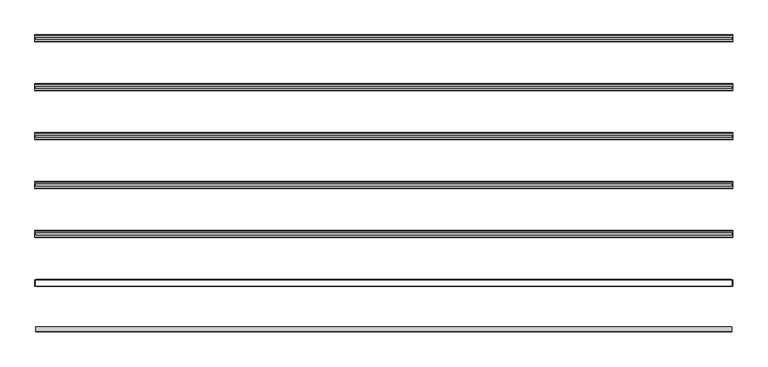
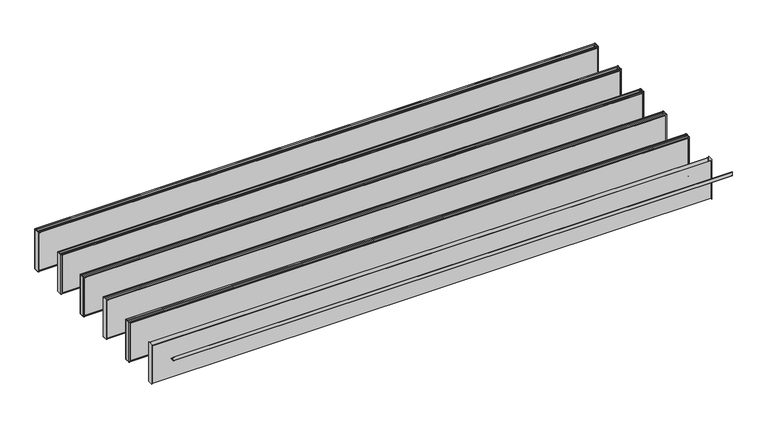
"""IFC4 building model written with IfcOpenShell, lengths in millimetres: proxy geometry, durlum_POLYLAM : durlum_POLYLAM 40."""

from ifc_helpers import new_model, si_unit, point, frame, frame_2d, origin, place, context, project, spatial, polyline, circle_curve, trimmed, segment, composite_curve, outline, extrude, source, transform, mapped, element, save
from ifc_brep_helpers import plane_surface, cylinder_surface, advanced_brep


def generic_models_c1ba41e6(model_context):
    return source(origin(), model_context, "Body", "SolidModel", [
        extrude(outline(composite_curve([segment(polyline([(2.0, 2079.9), (2.0, 2054.0)]), True, "CONTINUOUS"), segment(trimmed(circle_curve(frame_2d((4.0, 2054.0)), 2.0), [point((2.0, 2054.0))], [point((4.0, 2052.0))], True, "CARTESIAN"), True, "CONTINUOUS"), segment(polyline([(4.0, 2052.0), (29.9, 2052.0), (29.9, 2050.0), (4.0, 2050.0)]), True, "CONTINUOUS"), segment(trimmed(circle_curve(frame_2d((4.0, 2054.0)), 4.0), [point((4.0, 2050.0))], [point((0.0, 2054.0))], False, "CARTESIAN"), True, "CONTINUOUS"), segment(polyline([(0.0, 2054.0), (0.0, 2079.9), (2.0, 2079.9)]), True, "CONTINUOUS")], self_intersect=False)), frame((-1990.0, 0.0, 0.0), z_axis=(1.0, 0.0, 0.0), x_axis=(0.0, 1.0, 0.0)), (0.0, 0.0, 1.0), 3980.0),
        extrude(outline(polyline([(1986.5, 1699.0), (-1986.5, 1699.0), (-1986.5, 1700.0), (1986.5, 1700.0), (1986.5, 1699.0)])), frame((0.0, 0.0, 1725.4), z_axis=(0.0, 0.0, 1.0), x_axis=(1.0, 0.0, 0.0)), (0.0, 0.0, 1.0), 283.0),
        extrude(outline(polyline([(1986.5, 1660.0), (-1986.5, 1660.0), (-1986.5, 1661.0), (1986.5, 1661.0), (1986.5, 1660.0)])), frame((0.0, 0.0, 1725.4), z_axis=(0.0, 0.0, 1.0), x_axis=(1.0, 0.0, 0.0)), (0.0, 0.0, 1.0), 283.0),
        extrude(outline(polyline([(1993.0, 1699.0), (1995.0, 1699.0), (1995.0, 1661.0), (1993.0, 1661.0), (1993.0, 1699.0)])), frame((0.0, 0.0, 1717.9), z_axis=(0.0, 0.0, 1.0), x_axis=(1.0, 0.0, 0.0)), (0.0, 0.0, 1.0), 298.0),
        extrude(outline(polyline([(-1995.0, 1699.0), (-1993.0, 1699.0), (-1993.0, 1661.0), (-1995.0, 1661.0), (-1995.0, 1699.0)])), frame((0.0, 0.0, 1717.9), z_axis=(0.0, 0.0, 1.0), x_axis=(1.0, 0.0, 0.0)), (0.0, 0.0, 1.0), 298.0),
        advanced_brep(
        [(1995.0, 1698.0, 2016.9), (1995.0, 1688.0, 2016.9), (1995.0, 1688.0, 2015.9), (1995.0, 1699.0, 2015.9), (1995.0, 1699.0, 1717.9), (1995.0, 1661.0, 1717.9), (1995.0, 1661.0, 2015.8155735), (1995.0, 1672.0, 2015.8155735), (1995.0, 1672.0, 2016.9), (1995.0, 1662.0, 2016.9), (1995.0, 1660.0, 2014.9), (1995.0, 1660.0, 1718.9), (1995.0, 1662.0, 1716.9), (1995.0, 1698.0, 1716.9), (1995.0, 1700.0, 1718.9), (1995.0, 1700.0, 2014.9), (-1995.0, 1698.0, 2016.9), (-1995.0, 1700.0, 2014.9), (-1995.0, 1700.0, 1718.9), (-1995.0, 1698.0, 1716.9), (-1995.0, 1662.0, 1716.9), (-1995.0, 1660.0, 1718.9), (-1995.0, 1660.0, 2014.9), (-1995.0, 1662.0, 2016.9), (-1995.0, 1672.0, 2016.9), (-1995.0, 1672.0, 2015.8155735), (-1995.0, 1661.0, 2015.8155735), (-1995.0, 1661.0, 1717.9), (-1995.0, 1699.0, 1717.9), (-1995.0, 1699.0, 2015.9), (-1995.0, 1688.0, 2015.9), (-1995.0, 1688.0, 2016.9), (-1986.5, 1699.0, 2008.4), (1986.5, 1699.0, 2008.4), (1986.5, 1699.0, 1725.4), (-1986.5, 1699.0, 1725.4), (1986.5, 1661.0, 2008.4), (-1986.5, 1661.0, 2008.4), (-1986.5, 1661.0, 1725.4), (1986.5, 1661.0, 1725.4), (-1986.5, 1660.0, 2008.4), (1986.5, 1660.0, 2008.4), (1986.5, 1660.0, 1725.4), (-1986.5, 1660.0, 1725.4), (1986.5, 1700.0, 2008.4), (-1986.5, 1700.0, 2008.4), (-1986.5, 1700.0, 1725.4), (1986.5, 1700.0, 1725.4)],
        [
            (0, 1),
            (1, 2),
            (2, 3),
            (3, 4),
            (4, 5),
            (5, 6),
            (6, 7),
            (7, 8),
            (8, 9),
            (9, 10, circle_curve(frame((1995.0, 1662.0, 2014.9), z_axis=(1.0, 0.0, 0.0), x_axis=(0.0, 1.0, 0.0)), 2.0)),
            (10, 11),
            (11, 12, circle_curve(frame((1995.0, 1662.0, 1718.9), z_axis=(1.0, 0.0, 0.0), x_axis=(0.0, 1.0, 0.0)), 2.0)),
            (12, 13),
            (13, 14, circle_curve(frame((1995.0, 1698.0, 1718.9), z_axis=(1.0, 0.0, 0.0), x_axis=(0.0, 1.0, 0.0)), 2.0)),
            (14, 15),
            (15, 0, circle_curve(frame((1995.0, 1698.0, 2014.9), z_axis=(1.0, 0.0, 0.0), x_axis=(0.0, 1.0, 0.0)), 2.0)),
            (16, 17, circle_curve(frame((-1995.0, 1698.0, 2014.9), z_axis=(-1.0, 0.0, 0.0), x_axis=(0.0, 1.0, 0.0)), 2.0)),
            (17, 18),
            (18, 19, circle_curve(frame((-1995.0, 1698.0, 1718.9), z_axis=(-1.0, 0.0, 0.0), x_axis=(0.0, 1.0, 0.0)), 2.0)),
            (19, 20),
            (20, 21, circle_curve(frame((-1995.0, 1662.0, 1718.9), z_axis=(-1.0, 0.0, 0.0), x_axis=(0.0, 1.0, 0.0)), 2.0)),
            (21, 22),
            (22, 23, circle_curve(frame((-1995.0, 1662.0, 2014.9), z_axis=(-1.0, 0.0, 0.0), x_axis=(0.0, 1.0, 0.0)), 2.0)),
            (23, 24),
            (24, 25),
            (25, 26),
            (26, 27),
            (27, 28),
            (28, 29),
            (29, 30),
            (30, 31),
            (31, 16),
            (0, 16),
            (31, 1),
            (30, 2),
            (29, 3),
            (28, 4),
            (32, 33),
            (33, 34),
            (34, 35),
            (35, 32),
            (27, 5),
            (26, 6),
            (36, 37),
            (37, 38),
            (38, 39),
            (39, 36),
            (25, 7),
            (24, 8),
            (23, 9),
            (10, 22),
            (21, 11),
            (40, 41),
            (41, 42),
            (42, 43),
            (43, 40),
            (12, 20),
            (19, 13),
            (14, 18),
            (17, 15),
            (44, 45),
            (45, 46),
            (46, 47),
            (47, 44),
            (44, 33),
            (32, 45),
            (36, 41),
            (40, 37),
            (35, 46),
            (43, 38),
            (34, 47),
            (42, 39),
        ],
        [
            plane_surface(frame((1995.0, 1688.0, 2016.9), z_axis=(1.0, 0.0, 0.0), x_axis=(0.0, -1.0, 0.0))),
            plane_surface(frame((-1995.0, 1688.0, 2016.9), z_axis=(-1.0, 0.0, 0.0), x_axis=(0.0, 1.0, 0.0))),
            plane_surface(frame((1995.0, 1698.0, 2016.9), z_axis=(0.0, 0.0, 1.0), x_axis=(-1.0, 0.0, 0.0))),
            plane_surface(frame((1995.0, 1688.0, 2016.9), z_axis=(0.0, -1.0, 0.0), x_axis=(-1.0, 0.0, 0.0))),
            plane_surface(frame((1995.0, 1688.0, 2015.9), z_axis=(0.0, 0.0, -1.0), x_axis=(-1.0, 0.0, 0.0))),
            plane_surface(frame((1995.0, 1699.0, 2015.9), z_axis=(0.0, -1.0, 0.0), x_axis=(-1.0, 0.0, 0.0))),
            plane_surface(frame((1995.0, 1699.0, 1717.9), z_axis=(0.0, 0.0, 1.0), x_axis=(-1.0, 0.0, 0.0))),
            plane_surface(frame((1995.0, 1661.0, 1717.9), z_axis=(0.0, 1.0, 0.0), x_axis=(-1.0, 0.0, 0.0))),
            plane_surface(frame((1995.0, 1661.0, 2015.8155735), z_axis=(0.0, 0.0, -1.0), x_axis=(-1.0, 0.0, 0.0))),
            plane_surface(frame((1995.0, 1672.0, 2015.8155735), z_axis=(0.0, 1.0, 0.0), x_axis=(-1.0, 0.0, 0.0))),
            plane_surface(frame((1995.0, 1672.0, 2016.9), z_axis=(0.0, 0.0, 1.0), x_axis=(-1.0, 0.0, 0.0))),
            plane_surface(frame((1995.0, 1660.0, 2014.9), z_axis=(0.0, -1.0, 0.0), x_axis=(-1.0, 0.0, 0.0))),
            plane_surface(frame((1995.0, 1662.0, 1716.9), z_axis=(0.0, 0.0, -1.0), x_axis=(-1.0, 0.0, 0.0))),
            plane_surface(frame((1995.0, 1700.0, 1718.9), z_axis=(0.0, 1.0, 0.0), x_axis=(-1.0, 0.0, 0.0))),
            cylinder_surface(frame((-1995.0, 1662.0, 2014.9), z_axis=(1.0, 0.0, 0.0), x_axis=(0.0, 1.0, 0.0)), 2.0),
            cylinder_surface(frame((-1995.0, 1662.0, 1718.9), z_axis=(1.0, 0.0, 0.0), x_axis=(0.0, 1.0, 0.0)), 2.0),
            cylinder_surface(frame((-1995.0, 1698.0, 1718.9), z_axis=(1.0, 0.0, 0.0), x_axis=(0.0, 1.0, 0.0)), 2.0),
            cylinder_surface(frame((-1995.0, 1698.0, 2014.9), z_axis=(1.0, 0.0, 0.0), x_axis=(0.0, 1.0, 0.0)), 2.0),
            plane_surface(frame((1986.5, 1660.0, 2008.4), z_axis=(0.0, 0.0, -1.0), x_axis=(0.0, 1.0, 0.0))),
            plane_surface(frame((-1986.5, 1660.0, 2008.4), z_axis=(1.0, 0.0, 0.0), x_axis=(0.0, 1.0, 0.0))),
            plane_surface(frame((-1986.5, 1660.0, 1725.4), z_axis=(0.0, 0.0, 1.0), x_axis=(0.0, 1.0, 0.0))),
            plane_surface(frame((1986.5, 1660.0, 1725.4), z_axis=(-1.0, 0.0, 0.0), x_axis=(0.0, 1.0, 0.0))),
        ],
        [
            (0, [[1, 2, 3, 4, 5, 6, 7, 8, 9, 10, 11, 12, 13, 14, 15, 16]]),
            (1, [[17, 18, 19, 20, 21, 22, 23, 24, 25, 26, 27, 28, 29, 30, 31, 32]]),
            (2, [[-1, 33, -32, 34]]),
            (3, [[-2, -34, -31, 35]]),
            (4, [[-3, -35, -30, 36]]),
            (5, [[-4, -36, -29, 37], [38, 39, 40, 41]]),
            (6, [[-5, -37, -28, 42]]),
            (7, [[-6, -42, -27, 43], [44, 45, 46, 47]]),
            (8, [[-7, -43, -26, 48]]),
            (9, [[-8, -48, -25, 49]]),
            (10, [[-9, -49, -24, 50]]),
            (11, [[-11, 51, -22, 52], [53, 54, 55, 56]]),
            (12, [[-13, 57, -20, 58]]),
            (13, [[-15, 59, -18, 60], [61, 62, 63, 64]]),
            (14, [[-10, -50, -23, -51]]),
            (15, [[-12, -52, -21, -57]]),
            (16, [[-14, -58, -19, -59]]),
            (17, [[-16, -60, -17, -33]]),
            (18, [[65, -38, 66, -61]]),
            (18, [[67, -53, 68, -44]]),
            (19, [[-66, -41, 69, -62]]),
            (19, [[-68, -56, 70, -45]]),
            (20, [[-69, -40, 71, -63]]),
            (20, [[-70, -55, 72, -46]]),
            (21, [[-65, -64, -71, -39]]),
            (21, [[-67, -47, -72, -54]]),
        ],
    ),
        extrude(outline(polyline([(1986.5, 1419.0), (-1986.5, 1419.0), (-1986.5, 1420.0), (1986.5, 1420.0), (1986.5, 1419.0)])), frame((0.0, 0.0, 1725.4), z_axis=(0.0, 0.0, 1.0), x_axis=(1.0, 0.0, 0.0)), (0.0, 0.0, 1.0), 283.0),
        extrude(outline(polyline([(1986.5, 1380.0), (-1986.5, 1380.0), (-1986.5, 1381.0), (1986.5, 1381.0), (1986.5, 1380.0)])), frame((0.0, 0.0, 1725.4), z_axis=(0.0, 0.0, 1.0), x_axis=(1.0, 0.0, 0.0)), (0.0, 0.0, 1.0), 283.0),
        extrude(outline(polyline([(1993.0, 1419.0), (1995.0, 1419.0), (1995.0, 1381.0), (1993.0, 1381.0), (1993.0, 1419.0)])), frame((0.0, 0.0, 1717.9), z_axis=(0.0, 0.0, 1.0), x_axis=(1.0, 0.0, 0.0)), (0.0, 0.0, 1.0), 298.0),
        extrude(outline(polyline([(-1995.0, 1419.0), (-1993.0, 1419.0), (-1993.0, 1381.0), (-1995.0, 1381.0), (-1995.0, 1419.0)])), frame((0.0, 0.0, 1717.9), z_axis=(0.0, 0.0, 1.0), x_axis=(1.0, 0.0, 0.0)), (0.0, 0.0, 1.0), 298.0),
        advanced_brep(
        [(1995.0, 1418.0, 2016.9), (1995.0, 1408.0, 2016.9), (1995.0, 1408.0, 2015.9), (1995.0, 1419.0, 2015.9), (1995.0, 1419.0, 1717.9), (1995.0, 1381.0, 1717.9), (1995.0, 1381.0, 2015.8155735), (1995.0, 1392.0, 2015.8155735), (1995.0, 1392.0, 2016.9), (1995.0, 1382.0, 2016.9), (1995.0, 1380.0, 2014.9), (1995.0, 1380.0, 1718.9), (1995.0, 1382.0, 1716.9), (1995.0, 1418.0, 1716.9), (1995.0, 1420.0, 1718.9), (1995.0, 1420.0, 2014.9), (-1995.0, 1418.0, 2016.9), (-1995.0, 1420.0, 2014.9), (-1995.0, 1420.0, 1718.9), (-1995.0, 1418.0, 1716.9), (-1995.0, 1382.0, 1716.9), (-1995.0, 1380.0, 1718.9), (-1995.0, 1380.0, 2014.9), (-1995.0, 1382.0, 2016.9), (-1995.0, 1392.0, 2016.9), (-1995.0, 1392.0, 2015.8155735), (-1995.0, 1381.0, 2015.8155735), (-1995.0, 1381.0, 1717.9), (-1995.0, 1419.0, 1717.9), (-1995.0, 1419.0, 2015.9), (-1995.0, 1408.0, 2015.9), (-1995.0, 1408.0, 2016.9), (-1986.5, 1419.0, 2008.4), (1986.5, 1419.0, 2008.4), (1986.5, 1419.0, 1725.4), (-1986.5, 1419.0, 1725.4), (1986.5, 1381.0, 2008.4), (-1986.5, 1381.0, 2008.4), (-1986.5, 1381.0, 1725.4), (1986.5, 1381.0, 1725.4), (-1986.5, 1380.0, 2008.4), (1986.5, 1380.0, 2008.4), (1986.5, 1380.0, 1725.4), (-1986.5, 1380.0, 1725.4), (1986.5, 1420.0, 2008.4), (-1986.5, 1420.0, 2008.4), (-1986.5, 1420.0, 1725.4), (1986.5, 1420.0, 1725.4)],
        [
            (0, 1),
            (1, 2),
            (2, 3),
            (3, 4),
            (4, 5),
            (5, 6),
            (6, 7),
            (7, 8),
            (8, 9),
            (9, 10, circle_curve(frame((1995.0, 1382.0, 2014.9), z_axis=(1.0, 0.0, 0.0), x_axis=(0.0, 1.0, 0.0)), 2.0)),
            (10, 11),
            (11, 12, circle_curve(frame((1995.0, 1382.0, 1718.9), z_axis=(1.0, 0.0, 0.0), x_axis=(0.0, 1.0, 0.0)), 2.0)),
            (12, 13),
            (13, 14, circle_curve(frame((1995.0, 1418.0, 1718.9), z_axis=(1.0, 0.0, 0.0), x_axis=(0.0, 1.0, 0.0)), 2.0)),
            (14, 15),
            (15, 0, circle_curve(frame((1995.0, 1418.0, 2014.9), z_axis=(1.0, 0.0, 0.0), x_axis=(0.0, 1.0, 0.0)), 2.0)),
            (16, 17, circle_curve(frame((-1995.0, 1418.0, 2014.9), z_axis=(-1.0, 0.0, 0.0), x_axis=(0.0, 1.0, 0.0)), 2.0)),
            (17, 18),
            (18, 19, circle_curve(frame((-1995.0, 1418.0, 1718.9), z_axis=(-1.0, 0.0, 0.0), x_axis=(0.0, 1.0, 0.0)), 2.0)),
            (19, 20),
            (20, 21, circle_curve(frame((-1995.0, 1382.0, 1718.9), z_axis=(-1.0, 0.0, 0.0), x_axis=(0.0, 1.0, 0.0)), 2.0)),
            (21, 22),
            (22, 23, circle_curve(frame((-1995.0, 1382.0, 2014.9), z_axis=(-1.0, 0.0, 0.0), x_axis=(0.0, 1.0, 0.0)), 2.0)),
            (23, 24),
            (24, 25),
            (25, 26),
            (26, 27),
            (27, 28),
            (28, 29),
            (29, 30),
            (30, 31),
            (31, 16),
            (0, 16),
            (31, 1),
            (30, 2),
            (29, 3),
            (28, 4),
            (32, 33),
            (33, 34),
            (34, 35),
            (35, 32),
            (27, 5),
            (26, 6),
            (36, 37),
            (37, 38),
            (38, 39),
            (39, 36),
            (25, 7),
            (24, 8),
            (23, 9),
            (10, 22),
            (21, 11),
            (40, 41),
            (41, 42),
            (42, 43),
            (43, 40),
            (12, 20),
            (19, 13),
            (14, 18),
            (17, 15),
            (44, 45),
            (45, 46),
            (46, 47),
            (47, 44),
            (44, 33),
            (32, 45),
            (36, 41),
            (40, 37),
            (35, 46),
            (43, 38),
            (34, 47),
            (42, 39),
        ],
        [
            plane_surface(frame((1995.0, 1408.0, 2016.9), z_axis=(1.0, 0.0, 0.0), x_axis=(0.0, -1.0, 0.0))),
            plane_surface(frame((-1995.0, 1408.0, 2016.9), z_axis=(-1.0, 0.0, 0.0), x_axis=(0.0, 1.0, 0.0))),
            plane_surface(frame((1995.0, 1418.0, 2016.9), z_axis=(0.0, 0.0, 1.0), x_axis=(-1.0, 0.0, 0.0))),
            plane_surface(frame((1995.0, 1408.0, 2016.9), z_axis=(0.0, -1.0, 0.0), x_axis=(-1.0, 0.0, 0.0))),
            plane_surface(frame((1995.0, 1408.0, 2015.9), z_axis=(0.0, 0.0, -1.0), x_axis=(-1.0, 0.0, 0.0))),
            plane_surface(frame((1995.0, 1419.0, 2015.9), z_axis=(0.0, -1.0, 0.0), x_axis=(-1.0, 0.0, 0.0))),
            plane_surface(frame((1995.0, 1419.0, 1717.9), z_axis=(0.0, 0.0, 1.0), x_axis=(-1.0, 0.0, 0.0))),
            plane_surface(frame((1995.0, 1381.0, 1717.9), z_axis=(0.0, 1.0, 0.0), x_axis=(-1.0, 0.0, 0.0))),
            plane_surface(frame((1995.0, 1381.0, 2015.8155735), z_axis=(0.0, 0.0, -1.0), x_axis=(-1.0, 0.0, 0.0))),
            plane_surface(frame((1995.0, 1392.0, 2015.8155735), z_axis=(0.0, 1.0, 0.0), x_axis=(-1.0, 0.0, 0.0))),
            plane_surface(frame((1995.0, 1392.0, 2016.9), z_axis=(0.0, 0.0, 1.0), x_axis=(-1.0, 0.0, 0.0))),
            plane_surface(frame((1995.0, 1380.0, 2014.9), z_axis=(0.0, -1.0, 0.0), x_axis=(-1.0, 0.0, 0.0))),
            plane_surface(frame((1995.0, 1382.0, 1716.9), z_axis=(0.0, 0.0, -1.0), x_axis=(-1.0, 0.0, 0.0))),
            plane_surface(frame((1995.0, 1420.0, 1718.9), z_axis=(0.0, 1.0, 0.0), x_axis=(-1.0, 0.0, 0.0))),
            cylinder_surface(frame((-1995.0, 1382.0, 2014.9), z_axis=(1.0, 0.0, 0.0), x_axis=(0.0, 1.0, 0.0)), 2.0),
            cylinder_surface(frame((-1995.0, 1382.0, 1718.9), z_axis=(1.0, 0.0, 0.0), x_axis=(0.0, 1.0, 0.0)), 2.0),
            cylinder_surface(frame((-1995.0, 1418.0, 1718.9), z_axis=(1.0, 0.0, 0.0), x_axis=(0.0, 1.0, 0.0)), 2.0),
            cylinder_surface(frame((-1995.0, 1418.0, 2014.9), z_axis=(1.0, 0.0, 0.0), x_axis=(0.0, 1.0, 0.0)), 2.0),
            plane_surface(frame((1986.5, 1380.0, 2008.4), z_axis=(0.0, 0.0, -1.0), x_axis=(0.0, 1.0, 0.0))),
            plane_surface(frame((-1986.5, 1380.0, 2008.4), z_axis=(1.0, 0.0, 0.0), x_axis=(0.0, 1.0, 0.0))),
            plane_surface(frame((-1986.5, 1380.0, 1725.4), z_axis=(0.0, 0.0, 1.0), x_axis=(0.0, 1.0, 0.0))),
            plane_surface(frame((1986.5, 1380.0, 1725.4), z_axis=(-1.0, 0.0, 0.0), x_axis=(0.0, 1.0, 0.0))),
        ],
        [
            (0, [[1, 2, 3, 4, 5, 6, 7, 8, 9, 10, 11, 12, 13, 14, 15, 16]]),
            (1, [[17, 18, 19, 20, 21, 22, 23, 24, 25, 26, 27, 28, 29, 30, 31, 32]]),
            (2, [[-1, 33, -32, 34]]),
            (3, [[-2, -34, -31, 35]]),
            (4, [[-3, -35, -30, 36]]),
            (5, [[-4, -36, -29, 37], [38, 39, 40, 41]]),
            (6, [[-5, -37, -28, 42]]),
            (7, [[-6, -42, -27, 43], [44, 45, 46, 47]]),
            (8, [[-7, -43, -26, 48]]),
            (9, [[-8, -48, -25, 49]]),
            (10, [[-9, -49, -24, 50]]),
            (11, [[-11, 51, -22, 52], [53, 54, 55, 56]]),
            (12, [[-13, 57, -20, 58]]),
            (13, [[-15, 59, -18, 60], [61, 62, 63, 64]]),
            (14, [[-10, -50, -23, -51]]),
            (15, [[-12, -52, -21, -57]]),
            (16, [[-14, -58, -19, -59]]),
            (17, [[-16, -60, -17, -33]]),
            (18, [[65, -38, 66, -61]]),
            (18, [[67, -53, 68, -44]]),
            (19, [[-66, -41, 69, -62]]),
            (19, [[-68, -56, 70, -45]]),
            (20, [[-69, -40, 71, -63]]),
            (20, [[-70, -55, 72, -46]]),
            (21, [[-65, -64, -71, -39]]),
            (21, [[-67, -47, -72, -54]]),
        ],
    ),
        extrude(outline(polyline([(1986.5, 1139.0), (-1986.5, 1139.0), (-1986.5, 1140.0), (1986.5, 1140.0), (1986.5, 1139.0)])), frame((0.0, 0.0, 1725.4), z_axis=(0.0, 0.0, 1.0), x_axis=(1.0, 0.0, 0.0)), (0.0, 0.0, 1.0), 283.0),
        extrude(outline(polyline([(1986.5, 1100.0), (-1986.5, 1100.0), (-1986.5, 1101.0), (1986.5, 1101.0), (1986.5, 1100.0)])), frame((0.0, 0.0, 1725.4), z_axis=(0.0, 0.0, 1.0), x_axis=(1.0, 0.0, 0.0)), (0.0, 0.0, 1.0), 283.0),
        extrude(outline(polyline([(1993.0, 1139.0), (1995.0, 1139.0), (1995.0, 1101.0), (1993.0, 1101.0), (1993.0, 1139.0)])), frame((0.0, 0.0, 1717.9), z_axis=(0.0, 0.0, 1.0), x_axis=(1.0, 0.0, 0.0)), (0.0, 0.0, 1.0), 298.0),
        extrude(outline(polyline([(-1995.0, 1139.0), (-1993.0, 1139.0), (-1993.0, 1101.0), (-1995.0, 1101.0), (-1995.0, 1139.0)])), frame((0.0, 0.0, 1717.9), z_axis=(0.0, 0.0, 1.0), x_axis=(1.0, 0.0, 0.0)), (0.0, 0.0, 1.0), 298.0),
        advanced_brep(
        [(1995.0, 1138.0, 2016.9), (1995.0, 1128.0, 2016.9), (1995.0, 1128.0, 2015.9), (1995.0, 1139.0, 2015.9), (1995.0, 1139.0, 1717.9), (1995.0, 1101.0, 1717.9), (1995.0, 1101.0, 2015.8155735), (1995.0, 1112.0, 2015.8155735), (1995.0, 1112.0, 2016.9), (1995.0, 1102.0, 2016.9), (1995.0, 1100.0, 2014.9), (1995.0, 1100.0, 1718.9), (1995.0, 1102.0, 1716.9), (1995.0, 1138.0, 1716.9), (1995.0, 1140.0, 1718.9), (1995.0, 1140.0, 2014.9), (-1995.0, 1138.0, 2016.9), (-1995.0, 1140.0, 2014.9), (-1995.0, 1140.0, 1718.9), (-1995.0, 1138.0, 1716.9), (-1995.0, 1102.0, 1716.9), (-1995.0, 1100.0, 1718.9), (-1995.0, 1100.0, 2014.9), (-1995.0, 1102.0, 2016.9), (-1995.0, 1112.0, 2016.9), (-1995.0, 1112.0, 2015.8155735), (-1995.0, 1101.0, 2015.8155735), (-1995.0, 1101.0, 1717.9), (-1995.0, 1139.0, 1717.9), (-1995.0, 1139.0, 2015.9), (-1995.0, 1128.0, 2015.9), (-1995.0, 1128.0, 2016.9), (-1986.5, 1139.0, 2008.4), (1986.5, 1139.0, 2008.4), (1986.5, 1139.0, 1725.4), (-1986.5, 1139.0, 1725.4), (1986.5, 1101.0, 2008.4), (-1986.5, 1101.0, 2008.4), (-1986.5, 1101.0, 1725.4), (1986.5, 1101.0, 1725.4), (-1986.5, 1100.0, 2008.4), (1986.5, 1100.0, 2008.4), (1986.5, 1100.0, 1725.4), (-1986.5, 1100.0, 1725.4), (1986.5, 1140.0, 2008.4), (-1986.5, 1140.0, 2008.4), (-1986.5, 1140.0, 1725.4), (1986.5, 1140.0, 1725.4)],
        [
            (0, 1),
            (1, 2),
            (2, 3),
            (3, 4),
            (4, 5),
            (5, 6),
            (6, 7),
            (7, 8),
            (8, 9),
            (9, 10, circle_curve(frame((1995.0, 1102.0, 2014.9), z_axis=(1.0, 0.0, 0.0), x_axis=(0.0, 1.0, 0.0)), 2.0)),
            (10, 11),
            (11, 12, circle_curve(frame((1995.0, 1102.0, 1718.9), z_axis=(1.0, 0.0, 0.0), x_axis=(0.0, 1.0, 0.0)), 2.0)),
            (12, 13),
            (13, 14, circle_curve(frame((1995.0, 1138.0, 1718.9), z_axis=(1.0, 0.0, 0.0), x_axis=(0.0, 1.0, 0.0)), 2.0)),
            (14, 15),
            (15, 0, circle_curve(frame((1995.0, 1138.0, 2014.9), z_axis=(1.0, 0.0, 0.0), x_axis=(0.0, 1.0, 0.0)), 2.0)),
            (16, 17, circle_curve(frame((-1995.0, 1138.0, 2014.9), z_axis=(-1.0, 0.0, 0.0), x_axis=(0.0, 1.0, 0.0)), 2.0)),
            (17, 18),
            (18, 19, circle_curve(frame((-1995.0, 1138.0, 1718.9), z_axis=(-1.0, 0.0, 0.0), x_axis=(0.0, 1.0, 0.0)), 2.0)),
            (19, 20),
            (20, 21, circle_curve(frame((-1995.0, 1102.0, 1718.9), z_axis=(-1.0, 0.0, 0.0), x_axis=(0.0, 1.0, 0.0)), 2.0)),
            (21, 22),
            (22, 23, circle_curve(frame((-1995.0, 1102.0, 2014.9), z_axis=(-1.0, 0.0, 0.0), x_axis=(0.0, 1.0, 0.0)), 2.0)),
            (23, 24),
            (24, 25),
            (25, 26),
            (26, 27),
            (27, 28),
            (28, 29),
            (29, 30),
            (30, 31),
            (31, 16),
            (0, 16),
            (31, 1),
            (30, 2),
            (29, 3),
            (28, 4),
            (32, 33),
            (33, 34),
            (34, 35),
            (35, 32),
            (27, 5),
            (26, 6),
            (36, 37),
            (37, 38),
            (38, 39),
            (39, 36),
            (25, 7),
            (24, 8),
            (23, 9),
            (10, 22),
            (21, 11),
            (40, 41),
            (41, 42),
            (42, 43),
            (43, 40),
            (12, 20),
            (19, 13),
            (14, 18),
            (17, 15),
            (44, 45),
            (45, 46),
            (46, 47),
            (47, 44),
            (44, 33),
            (32, 45),
            (36, 41),
            (40, 37),
            (35, 46),
            (43, 38),
            (34, 47),
            (42, 39),
        ],
        [
            plane_surface(frame((1995.0, 1128.0, 2016.9), z_axis=(1.0, 0.0, 0.0), x_axis=(0.0, -1.0, 0.0))),
            plane_surface(frame((-1995.0, 1128.0, 2016.9), z_axis=(-1.0, 0.0, 0.0), x_axis=(0.0, 1.0, 0.0))),
            plane_surface(frame((1995.0, 1138.0, 2016.9), z_axis=(0.0, 0.0, 1.0), x_axis=(-1.0, 0.0, 0.0))),
            plane_surface(frame((1995.0, 1128.0, 2016.9), z_axis=(0.0, -1.0, 0.0), x_axis=(-1.0, 0.0, 0.0))),
            plane_surface(frame((1995.0, 1128.0, 2015.9), z_axis=(0.0, 0.0, -1.0), x_axis=(-1.0, 0.0, 0.0))),
            plane_surface(frame((1995.0, 1139.0, 2015.9), z_axis=(0.0, -1.0, 0.0), x_axis=(-1.0, 0.0, 0.0))),
            plane_surface(frame((1995.0, 1139.0, 1717.9), z_axis=(0.0, 0.0, 1.0), x_axis=(-1.0, 0.0, 0.0))),
            plane_surface(frame((1995.0, 1101.0, 1717.9), z_axis=(0.0, 1.0, 0.0), x_axis=(-1.0, 0.0, 0.0))),
            plane_surface(frame((1995.0, 1101.0, 2015.8155735), z_axis=(0.0, 0.0, -1.0), x_axis=(-1.0, 0.0, 0.0))),
            plane_surface(frame((1995.0, 1112.0, 2015.8155735), z_axis=(0.0, 1.0, 0.0), x_axis=(-1.0, 0.0, 0.0))),
            plane_surface(frame((1995.0, 1112.0, 2016.9), z_axis=(0.0, 0.0, 1.0), x_axis=(-1.0, 0.0, 0.0))),
            plane_surface(frame((1995.0, 1100.0, 2014.9), z_axis=(0.0, -1.0, 0.0), x_axis=(-1.0, 0.0, 0.0))),
            plane_surface(frame((1995.0, 1102.0, 1716.9), z_axis=(0.0, 0.0, -1.0), x_axis=(-1.0, 0.0, 0.0))),
            plane_surface(frame((1995.0, 1140.0, 1718.9), z_axis=(0.0, 1.0, 0.0), x_axis=(-1.0, 0.0, 0.0))),
            cylinder_surface(frame((-1995.0, 1102.0, 2014.9), z_axis=(1.0, 0.0, 0.0), x_axis=(0.0, 1.0, 0.0)), 2.0),
            cylinder_surface(frame((-1995.0, 1102.0, 1718.9), z_axis=(1.0, 0.0, 0.0), x_axis=(0.0, 1.0, 0.0)), 2.0),
            cylinder_surface(frame((-1995.0, 1138.0, 1718.9), z_axis=(1.0, 0.0, 0.0), x_axis=(0.0, 1.0, 0.0)), 2.0),
            cylinder_surface(frame((-1995.0, 1138.0, 2014.9), z_axis=(1.0, 0.0, 0.0), x_axis=(0.0, 1.0, 0.0)), 2.0),
            plane_surface(frame((1986.5, 1100.0, 2008.4), z_axis=(0.0, 0.0, -1.0), x_axis=(0.0, 1.0, 0.0))),
            plane_surface(frame((-1986.5, 1100.0, 2008.4), z_axis=(1.0, 0.0, 0.0), x_axis=(0.0, 1.0, 0.0))),
            plane_surface(frame((-1986.5, 1100.0, 1725.4), z_axis=(0.0, 0.0, 1.0), x_axis=(0.0, 1.0, 0.0))),
            plane_surface(frame((1986.5, 1100.0, 1725.4), z_axis=(-1.0, 0.0, 0.0), x_axis=(0.0, 1.0, 0.0))),
        ],
        [
            (0, [[1, 2, 3, 4, 5, 6, 7, 8, 9, 10, 11, 12, 13, 14, 15, 16]]),
            (1, [[17, 18, 19, 20, 21, 22, 23, 24, 25, 26, 27, 28, 29, 30, 31, 32]]),
            (2, [[-1, 33, -32, 34]]),
            (3, [[-2, -34, -31, 35]]),
            (4, [[-3, -35, -30, 36]]),
            (5, [[-4, -36, -29, 37], [38, 39, 40, 41]]),
            (6, [[-5, -37, -28, 42]]),
            (7, [[-6, -42, -27, 43], [44, 45, 46, 47]]),
            (8, [[-7, -43, -26, 48]]),
            (9, [[-8, -48, -25, 49]]),
            (10, [[-9, -49, -24, 50]]),
            (11, [[-11, 51, -22, 52], [53, 54, 55, 56]]),
            (12, [[-13, 57, -20, 58]]),
            (13, [[-15, 59, -18, 60], [61, 62, 63, 64]]),
            (14, [[-10, -50, -23, -51]]),
            (15, [[-12, -52, -21, -57]]),
            (16, [[-14, -58, -19, -59]]),
            (17, [[-16, -60, -17, -33]]),
            (18, [[65, -38, 66, -61]]),
            (18, [[67, -53, 68, -44]]),
            (19, [[-66, -41, 69, -62]]),
            (19, [[-68, -56, 70, -45]]),
            (20, [[-69, -40, 71, -63]]),
            (20, [[-70, -55, 72, -46]]),
            (21, [[-65, -64, -71, -39]]),
            (21, [[-67, -47, -72, -54]]),
        ],
    ),
        extrude(outline(polyline([(1986.5, 859.0), (-1986.5, 859.0), (-1986.5, 860.0), (1986.5, 860.0), (1986.5, 859.0)])), frame((0.0, 0.0, 1725.4), z_axis=(0.0, 0.0, 1.0), x_axis=(1.0, 0.0, 0.0)), (0.0, 0.0, 1.0), 283.0),
        extrude(outline(polyline([(1986.5, 820.0), (-1986.5, 820.0), (-1986.5, 821.0), (1986.5, 821.0), (1986.5, 820.0)])), frame((0.0, 0.0, 1725.4), z_axis=(0.0, 0.0, 1.0), x_axis=(1.0, 0.0, 0.0)), (0.0, 0.0, 1.0), 283.0),
        extrude(outline(polyline([(1993.0, 859.0), (1995.0, 859.0), (1995.0, 821.0), (1993.0, 821.0), (1993.0, 859.0)])), frame((0.0, 0.0, 1717.9), z_axis=(0.0, 0.0, 1.0), x_axis=(1.0, 0.0, 0.0)), (0.0, 0.0, 1.0), 298.0),
        extrude(outline(polyline([(-1995.0, 859.0), (-1993.0, 859.0), (-1993.0, 821.0), (-1995.0, 821.0), (-1995.0, 859.0)])), frame((0.0, 0.0, 1717.9), z_axis=(0.0, 0.0, 1.0), x_axis=(1.0, 0.0, 0.0)), (0.0, 0.0, 1.0), 298.0),
        advanced_brep(
        [(1995.0, 858.0, 2016.9), (1995.0, 848.0, 2016.9), (1995.0, 848.0, 2015.9), (1995.0, 859.0, 2015.9), (1995.0, 859.0, 1717.9), (1995.0, 821.0, 1717.9), (1995.0, 821.0, 2015.8155735), (1995.0, 832.0, 2015.8155735), (1995.0, 832.0, 2016.9), (1995.0, 822.0, 2016.9), (1995.0, 820.0, 2014.9), (1995.0, 820.0, 1718.9), (1995.0, 822.0, 1716.9), (1995.0, 858.0, 1716.9), (1995.0, 860.0, 1718.9), (1995.0, 860.0, 2014.9), (-1995.0, 858.0, 2016.9), (-1995.0, 860.0, 2014.9), (-1995.0, 860.0, 1718.9), (-1995.0, 858.0, 1716.9), (-1995.0, 822.0, 1716.9), (-1995.0, 820.0, 1718.9), (-1995.0, 820.0, 2014.9), (-1995.0, 822.0, 2016.9), (-1995.0, 832.0, 2016.9), (-1995.0, 832.0, 2015.8155735), (-1995.0, 821.0, 2015.8155735), (-1995.0, 821.0, 1717.9), (-1995.0, 859.0, 1717.9), (-1995.0, 859.0, 2015.9), (-1995.0, 848.0, 2015.9), (-1995.0, 848.0, 2016.9), (-1986.5, 859.0, 2008.4), (1986.5, 859.0, 2008.4), (1986.5, 859.0, 1725.4), (-1986.5, 859.0, 1725.4), (1986.5, 821.0, 2008.4), (-1986.5, 821.0, 2008.4), (-1986.5, 821.0, 1725.4), (1986.5, 821.0, 1725.4), (-1986.5, 820.0, 2008.4), (1986.5, 820.0, 2008.4), (1986.5, 820.0, 1725.4), (-1986.5, 820.0, 1725.4), (1986.5, 860.0, 2008.4), (-1986.5, 860.0, 2008.4), (-1986.5, 860.0, 1725.4), (1986.5, 860.0, 1725.4)],
        [
            (0, 1),
            (1, 2),
            (2, 3),
            (3, 4),
            (4, 5),
            (5, 6),
            (6, 7),
            (7, 8),
            (8, 9),
            (9, 10, circle_curve(frame((1995.0, 822.0, 2014.9), z_axis=(1.0, 0.0, 0.0), x_axis=(0.0, 1.0, 0.0)), 2.0)),
            (10, 11),
            (11, 12, circle_curve(frame((1995.0, 822.0, 1718.9), z_axis=(1.0, 0.0, 0.0), x_axis=(0.0, 1.0, 0.0)), 2.0)),
            (12, 13),
            (13, 14, circle_curve(frame((1995.0, 858.0, 1718.9), z_axis=(1.0, 0.0, 0.0), x_axis=(0.0, 1.0, 0.0)), 2.0)),
            (14, 15),
            (15, 0, circle_curve(frame((1995.0, 858.0, 2014.9), z_axis=(1.0, 0.0, 0.0), x_axis=(0.0, 1.0, 0.0)), 2.0)),
            (16, 17, circle_curve(frame((-1995.0, 858.0, 2014.9), z_axis=(-1.0, 0.0, 0.0), x_axis=(0.0, 1.0, 0.0)), 2.0)),
            (17, 18),
            (18, 19, circle_curve(frame((-1995.0, 858.0, 1718.9), z_axis=(-1.0, 0.0, 0.0), x_axis=(0.0, 1.0, 0.0)), 2.0)),
            (19, 20),
            (20, 21, circle_curve(frame((-1995.0, 822.0, 1718.9), z_axis=(-1.0, 0.0, 0.0), x_axis=(0.0, 1.0, 0.0)), 2.0)),
            (21, 22),
            (22, 23, circle_curve(frame((-1995.0, 822.0, 2014.9), z_axis=(-1.0, 0.0, 0.0), x_axis=(0.0, 1.0, 0.0)), 2.0)),
            (23, 24),
            (24, 25),
            (25, 26),
            (26, 27),
            (27, 28),
            (28, 29),
            (29, 30),
            (30, 31),
            (31, 16),
            (0, 16),
            (31, 1),
            (30, 2),
            (29, 3),
            (28, 4),
            (32, 33),
            (33, 34),
            (34, 35),
            (35, 32),
            (27, 5),
            (26, 6),
            (36, 37),
            (37, 38),
            (38, 39),
            (39, 36),
            (25, 7),
            (24, 8),
            (23, 9),
            (10, 22),
            (21, 11),
            (40, 41),
            (41, 42),
            (42, 43),
            (43, 40),
            (12, 20),
            (19, 13),
            (14, 18),
            (17, 15),
            (44, 45),
            (45, 46),
            (46, 47),
            (47, 44),
            (44, 33),
            (32, 45),
            (36, 41),
            (40, 37),
            (35, 46),
            (43, 38),
            (34, 47),
            (42, 39),
        ],
        [
            plane_surface(frame((1995.0, 848.0, 2016.9), z_axis=(1.0, 0.0, 0.0), x_axis=(0.0, -1.0, 0.0))),
            plane_surface(frame((-1995.0, 848.0, 2016.9), z_axis=(-1.0, 0.0, 0.0), x_axis=(0.0, 1.0, 0.0))),
            plane_surface(frame((1995.0, 858.0, 2016.9), z_axis=(0.0, 0.0, 1.0), x_axis=(-1.0, 0.0, 0.0))),
            plane_surface(frame((1995.0, 848.0, 2016.9), z_axis=(0.0, -1.0, 0.0), x_axis=(-1.0, 0.0, 0.0))),
            plane_surface(frame((1995.0, 848.0, 2015.9), z_axis=(0.0, 0.0, -1.0), x_axis=(-1.0, 0.0, 0.0))),
            plane_surface(frame((1995.0, 859.0, 2015.9), z_axis=(0.0, -1.0, 0.0), x_axis=(-1.0, 0.0, 0.0))),
            plane_surface(frame((1995.0, 859.0, 1717.9), z_axis=(0.0, 0.0, 1.0), x_axis=(-1.0, 0.0, 0.0))),
            plane_surface(frame((1995.0, 821.0, 1717.9), z_axis=(0.0, 1.0, 0.0), x_axis=(-1.0, 0.0, 0.0))),
            plane_surface(frame((1995.0, 821.0, 2015.8155735), z_axis=(0.0, 0.0, -1.0), x_axis=(-1.0, 0.0, 0.0))),
            plane_surface(frame((1995.0, 832.0, 2015.8155735), z_axis=(0.0, 1.0, 0.0), x_axis=(-1.0, 0.0, 0.0))),
            plane_surface(frame((1995.0, 832.0, 2016.9), z_axis=(0.0, 0.0, 1.0), x_axis=(-1.0, 0.0, 0.0))),
            plane_surface(frame((1995.0, 820.0, 2014.9), z_axis=(0.0, -1.0, 0.0), x_axis=(-1.0, 0.0, 0.0))),
            plane_surface(frame((1995.0, 822.0, 1716.9), z_axis=(0.0, 0.0, -1.0), x_axis=(-1.0, 0.0, 0.0))),
            plane_surface(frame((1995.0, 860.0, 1718.9), z_axis=(0.0, 1.0, 0.0), x_axis=(-1.0, 0.0, 0.0))),
            cylinder_surface(frame((-1995.0, 822.0, 2014.9), z_axis=(1.0, 0.0, 0.0), x_axis=(0.0, 1.0, 0.0)), 2.0),
            cylinder_surface(frame((-1995.0, 822.0, 1718.9), z_axis=(1.0, 0.0, 0.0), x_axis=(0.0, 1.0, 0.0)), 2.0),
            cylinder_surface(frame((-1995.0, 858.0, 1718.9), z_axis=(1.0, 0.0, 0.0), x_axis=(0.0, 1.0, 0.0)), 2.0),
            cylinder_surface(frame((-1995.0, 858.0, 2014.9), z_axis=(1.0, 0.0, 0.0), x_axis=(0.0, 1.0, 0.0)), 2.0),
            plane_surface(frame((1986.5, 820.0, 2008.4), z_axis=(0.0, 0.0, -1.0), x_axis=(0.0, 1.0, 0.0))),
            plane_surface(frame((-1986.5, 820.0, 2008.4), z_axis=(1.0, 0.0, 0.0), x_axis=(0.0, 1.0, 0.0))),
            plane_surface(frame((-1986.5, 820.0, 1725.4), z_axis=(0.0, 0.0, 1.0), x_axis=(0.0, 1.0, 0.0))),
            plane_surface(frame((1986.5, 820.0, 1725.4), z_axis=(-1.0, 0.0, 0.0), x_axis=(0.0, 1.0, 0.0))),
        ],
        [
            (0, [[1, 2, 3, 4, 5, 6, 7, 8, 9, 10, 11, 12, 13, 14, 15, 16]]),
            (1, [[17, 18, 19, 20, 21, 22, 23, 24, 25, 26, 27, 28, 29, 30, 31, 32]]),
            (2, [[-1, 33, -32, 34]]),
            (3, [[-2, -34, -31, 35]]),
            (4, [[-3, -35, -30, 36]]),
            (5, [[-4, -36, -29, 37], [38, 39, 40, 41]]),
            (6, [[-5, -37, -28, 42]]),
            (7, [[-6, -42, -27, 43], [44, 45, 46, 47]]),
            (8, [[-7, -43, -26, 48]]),
            (9, [[-8, -48, -25, 49]]),
            (10, [[-9, -49, -24, 50]]),
            (11, [[-11, 51, -22, 52], [53, 54, 55, 56]]),
            (12, [[-13, 57, -20, 58]]),
            (13, [[-15, 59, -18, 60], [61, 62, 63, 64]]),
            (14, [[-10, -50, -23, -51]]),
            (15, [[-12, -52, -21, -57]]),
            (16, [[-14, -58, -19, -59]]),
            (17, [[-16, -60, -17, -33]]),
            (18, [[65, -38, 66, -61]]),
            (18, [[67, -53, 68, -44]]),
            (19, [[-66, -41, 69, -62]]),
            (19, [[-68, -56, 70, -45]]),
            (20, [[-69, -40, 71, -63]]),
            (20, [[-70, -55, 72, -46]]),
            (21, [[-65, -64, -71, -39]]),
            (21, [[-67, -47, -72, -54]]),
        ],
    ),
        extrude(outline(polyline([(1986.5, 579.0), (-1986.5, 579.0), (-1986.5, 580.0), (1986.5, 580.0), (1986.5, 579.0)])), frame((0.0, 0.0, 1725.4), z_axis=(0.0, 0.0, 1.0), x_axis=(1.0, 0.0, 0.0)), (0.0, 0.0, 1.0), 283.0),
        extrude(outline(polyline([(1986.5, 540.0), (-1986.5, 540.0), (-1986.5, 541.0), (1986.5, 541.0), (1986.5, 540.0)])), frame((0.0, 0.0, 1725.4), z_axis=(0.0, 0.0, 1.0), x_axis=(1.0, 0.0, 0.0)), (0.0, 0.0, 1.0), 283.0),
        extrude(outline(polyline([(1993.0, 579.0), (1995.0, 579.0), (1995.0, 541.0), (1993.0, 541.0), (1993.0, 579.0)])), frame((0.0, 0.0, 1717.9), z_axis=(0.0, 0.0, 1.0), x_axis=(1.0, 0.0, 0.0)), (0.0, 0.0, 1.0), 298.0),
        extrude(outline(polyline([(-1995.0, 579.0), (-1993.0, 579.0), (-1993.0, 541.0), (-1995.0, 541.0), (-1995.0, 579.0)])), frame((0.0, 0.0, 1717.9), z_axis=(0.0, 0.0, 1.0), x_axis=(1.0, 0.0, 0.0)), (0.0, 0.0, 1.0), 298.0),
        advanced_brep(
        [(1995.0, 578.0, 2016.9), (1995.0, 568.0, 2016.9), (1995.0, 568.0, 2015.9), (1995.0, 579.0, 2015.9), (1995.0, 579.0, 1717.9), (1995.0, 541.0, 1717.9), (1995.0, 541.0, 2015.8155735), (1995.0, 552.0, 2015.8155735), (1995.0, 552.0, 2016.9), (1995.0, 542.0, 2016.9), (1995.0, 540.0, 2014.9), (1995.0, 540.0, 1718.9), (1995.0, 542.0, 1716.9), (1995.0, 578.0, 1716.9), (1995.0, 580.0, 1718.9), (1995.0, 580.0, 2014.9), (-1995.0, 578.0, 2016.9), (-1995.0, 580.0, 2014.9), (-1995.0, 580.0, 1718.9), (-1995.0, 578.0, 1716.9), (-1995.0, 542.0, 1716.9), (-1995.0, 540.0, 1718.9), (-1995.0, 540.0, 2014.9), (-1995.0, 542.0, 2016.9), (-1995.0, 552.0, 2016.9), (-1995.0, 552.0, 2015.8155735), (-1995.0, 541.0, 2015.8155735), (-1995.0, 541.0, 1717.9), (-1995.0, 579.0, 1717.9), (-1995.0, 579.0, 2015.9), (-1995.0, 568.0, 2015.9), (-1995.0, 568.0, 2016.9), (-1986.5, 579.0, 2008.4), (1986.5, 579.0, 2008.4), (1986.5, 579.0, 1725.4), (-1986.5, 579.0, 1725.4), (1986.5, 541.0, 2008.4), (-1986.5, 541.0, 2008.4), (-1986.5, 541.0, 1725.4), (1986.5, 541.0, 1725.4), (-1986.5, 540.0, 2008.4), (1986.5, 540.0, 2008.4), (1986.5, 540.0, 1725.4), (-1986.5, 540.0, 1725.4), (1986.5, 580.0, 2008.4), (-1986.5, 580.0, 2008.4), (-1986.5, 580.0, 1725.4), (1986.5, 580.0, 1725.4)],
        [
            (0, 1),
            (1, 2),
            (2, 3),
            (3, 4),
            (4, 5),
            (5, 6),
            (6, 7),
            (7, 8),
            (8, 9),
            (9, 10, circle_curve(frame((1995.0, 542.0, 2014.9), z_axis=(1.0, 0.0, 0.0), x_axis=(0.0, 1.0, 0.0)), 2.0)),
            (10, 11),
            (11, 12, circle_curve(frame((1995.0, 542.0, 1718.9), z_axis=(1.0, 0.0, 0.0), x_axis=(0.0, 1.0, 0.0)), 2.0)),
            (12, 13),
            (13, 14, circle_curve(frame((1995.0, 578.0, 1718.9), z_axis=(1.0, 0.0, 0.0), x_axis=(0.0, 1.0, 0.0)), 2.0)),
            (14, 15),
            (15, 0, circle_curve(frame((1995.0, 578.0, 2014.9), z_axis=(1.0, 0.0, 0.0), x_axis=(0.0, 1.0, 0.0)), 2.0)),
            (16, 17, circle_curve(frame((-1995.0, 578.0, 2014.9), z_axis=(-1.0, 0.0, 0.0), x_axis=(0.0, 1.0, 0.0)), 2.0)),
            (17, 18),
            (18, 19, circle_curve(frame((-1995.0, 578.0, 1718.9), z_axis=(-1.0, 0.0, 0.0), x_axis=(0.0, 1.0, 0.0)), 2.0)),
            (19, 20),
            (20, 21, circle_curve(frame((-1995.0, 542.0, 1718.9), z_axis=(-1.0, 0.0, 0.0), x_axis=(0.0, 1.0, 0.0)), 2.0)),
            (21, 22),
            (22, 23, circle_curve(frame((-1995.0, 542.0, 2014.9), z_axis=(-1.0, 0.0, 0.0), x_axis=(0.0, 1.0, 0.0)), 2.0)),
            (23, 24),
            (24, 25),
            (25, 26),
            (26, 27),
            (27, 28),
            (28, 29),
            (29, 30),
            (30, 31),
            (31, 16),
            (0, 16),
            (31, 1),
            (30, 2),
            (29, 3),
            (28, 4),
            (32, 33),
            (33, 34),
            (34, 35),
            (35, 32),
            (27, 5),
            (26, 6),
            (36, 37),
            (37, 38),
            (38, 39),
            (39, 36),
            (25, 7),
            (24, 8),
            (23, 9),
            (10, 22),
            (21, 11),
            (40, 41),
            (41, 42),
            (42, 43),
            (43, 40),
            (12, 20),
            (19, 13),
            (14, 18),
            (17, 15),
            (44, 45),
            (45, 46),
            (46, 47),
            (47, 44),
            (44, 33),
            (32, 45),
            (36, 41),
            (40, 37),
            (35, 46),
            (43, 38),
            (34, 47),
            (42, 39),
        ],
        [
            plane_surface(frame((1995.0, 568.0, 2016.9), z_axis=(1.0, 0.0, 0.0), x_axis=(0.0, -1.0, 0.0))),
            plane_surface(frame((-1995.0, 568.0, 2016.9), z_axis=(-1.0, 0.0, 0.0), x_axis=(0.0, 1.0, 0.0))),
            plane_surface(frame((1995.0, 578.0, 2016.9), z_axis=(0.0, 0.0, 1.0), x_axis=(-1.0, 0.0, 0.0))),
            plane_surface(frame((1995.0, 568.0, 2016.9), z_axis=(0.0, -1.0, 0.0), x_axis=(-1.0, 0.0, 0.0))),
            plane_surface(frame((1995.0, 568.0, 2015.9), z_axis=(0.0, 0.0, -1.0), x_axis=(-1.0, 0.0, 0.0))),
            plane_surface(frame((1995.0, 579.0, 2015.9), z_axis=(0.0, -1.0, 0.0), x_axis=(-1.0, 0.0, 0.0))),
            plane_surface(frame((1995.0, 579.0, 1717.9), z_axis=(0.0, 0.0, 1.0), x_axis=(-1.0, 0.0, 0.0))),
            plane_surface(frame((1995.0, 541.0, 1717.9), z_axis=(0.0, 1.0, 0.0), x_axis=(-1.0, 0.0, 0.0))),
            plane_surface(frame((1995.0, 541.0, 2015.8155735), z_axis=(0.0, 0.0, -1.0), x_axis=(-1.0, 0.0, 0.0))),
            plane_surface(frame((1995.0, 552.0, 2015.8155735), z_axis=(0.0, 1.0, 0.0), x_axis=(-1.0, 0.0, 0.0))),
            plane_surface(frame((1995.0, 552.0, 2016.9), z_axis=(0.0, 0.0, 1.0), x_axis=(-1.0, 0.0, 0.0))),
            plane_surface(frame((1995.0, 540.0, 2014.9), z_axis=(0.0, -1.0, 0.0), x_axis=(-1.0, 0.0, 0.0))),
            plane_surface(frame((1995.0, 542.0, 1716.9), z_axis=(0.0, 0.0, -1.0), x_axis=(-1.0, 0.0, 0.0))),
            plane_surface(frame((1995.0, 580.0, 1718.9), z_axis=(0.0, 1.0, 0.0), x_axis=(-1.0, 0.0, 0.0))),
            cylinder_surface(frame((-1995.0, 542.0, 2014.9), z_axis=(1.0, 0.0, 0.0), x_axis=(0.0, 1.0, 0.0)), 2.0),
            cylinder_surface(frame((-1995.0, 542.0, 1718.9), z_axis=(1.0, 0.0, 0.0), x_axis=(0.0, 1.0, 0.0)), 2.0),
            cylinder_surface(frame((-1995.0, 578.0, 1718.9), z_axis=(1.0, 0.0, 0.0), x_axis=(0.0, 1.0, 0.0)), 2.0),
            cylinder_surface(frame((-1995.0, 578.0, 2014.9), z_axis=(1.0, 0.0, 0.0), x_axis=(0.0, 1.0, 0.0)), 2.0),
            plane_surface(frame((1986.5, 540.0, 2008.4), z_axis=(0.0, 0.0, -1.0), x_axis=(0.0, 1.0, 0.0))),
            plane_surface(frame((-1986.5, 540.0, 2008.4), z_axis=(1.0, 0.0, 0.0), x_axis=(0.0, 1.0, 0.0))),
            plane_surface(frame((-1986.5, 540.0, 1725.4), z_axis=(0.0, 0.0, 1.0), x_axis=(0.0, 1.0, 0.0))),
            plane_surface(frame((1986.5, 540.0, 1725.4), z_axis=(-1.0, 0.0, 0.0), x_axis=(0.0, 1.0, 0.0))),
        ],
        [
            (0, [[1, 2, 3, 4, 5, 6, 7, 8, 9, 10, 11, 12, 13, 14, 15, 16]]),
            (1, [[17, 18, 19, 20, 21, 22, 23, 24, 25, 26, 27, 28, 29, 30, 31, 32]]),
            (2, [[-1, 33, -32, 34]]),
            (3, [[-2, -34, -31, 35]]),
            (4, [[-3, -35, -30, 36]]),
            (5, [[-4, -36, -29, 37], [38, 39, 40, 41]]),
            (6, [[-5, -37, -28, 42]]),
            (7, [[-6, -42, -27, 43], [44, 45, 46, 47]]),
            (8, [[-7, -43, -26, 48]]),
            (9, [[-8, -48, -25, 49]]),
            (10, [[-9, -49, -24, 50]]),
            (11, [[-11, 51, -22, 52], [53, 54, 55, 56]]),
            (12, [[-13, 57, -20, 58]]),
            (13, [[-15, 59, -18, 60], [61, 62, 63, 64]]),
            (14, [[-10, -50, -23, -51]]),
            (15, [[-12, -52, -21, -57]]),
            (16, [[-14, -58, -19, -59]]),
            (17, [[-16, -60, -17, -33]]),
            (18, [[65, -38, 66, -61]]),
            (18, [[67, -53, 68, -44]]),
            (19, [[-66, -41, 69, -62]]),
            (19, [[-68, -56, 70, -45]]),
            (20, [[-69, -40, 71, -63]]),
            (20, [[-70, -55, 72, -46]]),
            (21, [[-65, -64, -71, -39]]),
            (21, [[-67, -47, -72, -54]]),
        ],
    ),
        extrude(outline(polyline([(1986.5, 299.0), (-1986.5, 299.0), (-1986.5, 300.0), (1986.5, 300.0), (1986.5, 299.0)])), frame((0.0, 0.0, 1725.4), z_axis=(0.0, 0.0, 1.0), x_axis=(1.0, 0.0, 0.0)), (0.0, 0.0, 1.0), 283.0),
        extrude(outline(polyline([(1986.5, 260.0), (-1986.5, 260.0), (-1986.5, 261.0), (1986.5, 261.0), (1986.5, 260.0)])), frame((0.0, 0.0, 1725.4), z_axis=(0.0, 0.0, 1.0), x_axis=(1.0, 0.0, 0.0)), (0.0, 0.0, 1.0), 283.0),
        extrude(outline(polyline([(1993.0, 299.0), (1995.0, 299.0), (1995.0, 261.0), (1993.0, 261.0), (1993.0, 299.0)])), frame((0.0, 0.0, 1717.9), z_axis=(0.0, 0.0, 1.0), x_axis=(1.0, 0.0, 0.0)), (0.0, 0.0, 1.0), 298.0),
        extrude(outline(polyline([(-1995.0, 299.0), (-1993.0, 299.0), (-1993.0, 261.0), (-1995.0, 261.0), (-1995.0, 299.0)])), frame((0.0, 0.0, 1717.9), z_axis=(0.0, 0.0, 1.0), x_axis=(1.0, 0.0, 0.0)), (0.0, 0.0, 1.0), 298.0),
    ])


if __name__ == "__main__":
    model = new_model("IFC4")
    model_context = context("Model", 3, world=origin())
    ifc_project = project(units=[si_unit("LENGTHUNIT", "METRE", prefix="MILLI")], contexts=[model_context])
    site = spatial("IfcSite", under=ifc_project)
    building = spatial("IfcBuilding", under=site)
    placement = place(None, origin())
    generic_models_shape = generic_models_c1ba41e6(model_context)
    element("IfcBuildingElementProxy", 1, Name="durlum_POLYLAM : durlum_POLYLAM 40", ObjectType="durlum_POLYLAM : durlum_POLYLAM 40", at=placement, inside=building, context=model_context, shape_type="MappedRepresentation", body=[
        mapped(generic_models_shape, transform((0.0, 0.0, 0.0), x_axis=(1.0, 0.0, 0.0), y_axis=(0.0, 1.0, 0.0), z_axis=(0.0, 0.0, 1.0))),
    ])
    save(model, "model.ifc")
